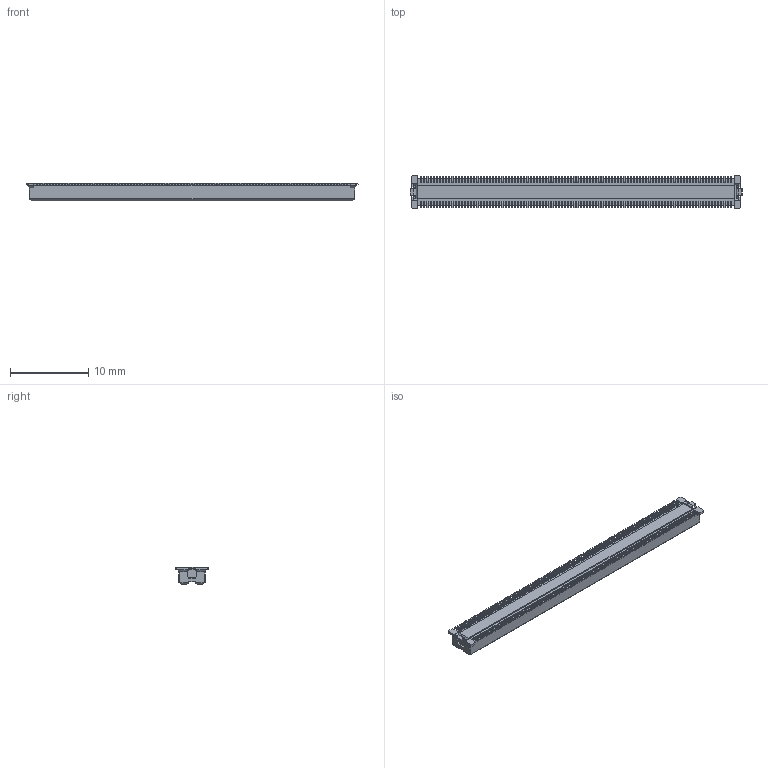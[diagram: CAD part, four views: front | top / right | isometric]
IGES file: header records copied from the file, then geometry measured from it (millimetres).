
Start section: Elysium IGES Interface
Global section: file name: 138H\\Honsha3\ko_gi\登録\KONEGI\62期\第三技術部\設計共有\DUSxx-xxxS-3\量産開発\3D\客先提出用3D\P3E549_DUS10-200S-3-T\P3E549_DUS10-200S-3-T.igs; native system: Creo Elements/Direct Modeling 20.6  25-Mar-2023; preprocessor: Creo Element/Direct IGES_3D V2.2; author: Unknown; organization: Unknown; date: 20240326.085236; units: millimetre
Bounding box: 42.47 x 4.26 x 2.25 mm (x, y, z)
Volume: 230.6 mm3; surface area: 761.7 mm2
Topology: 1 solids, 1 shells, 3538 faces, 9976 edges, 6640 vertices
Faces by surface type: bspline 3538
